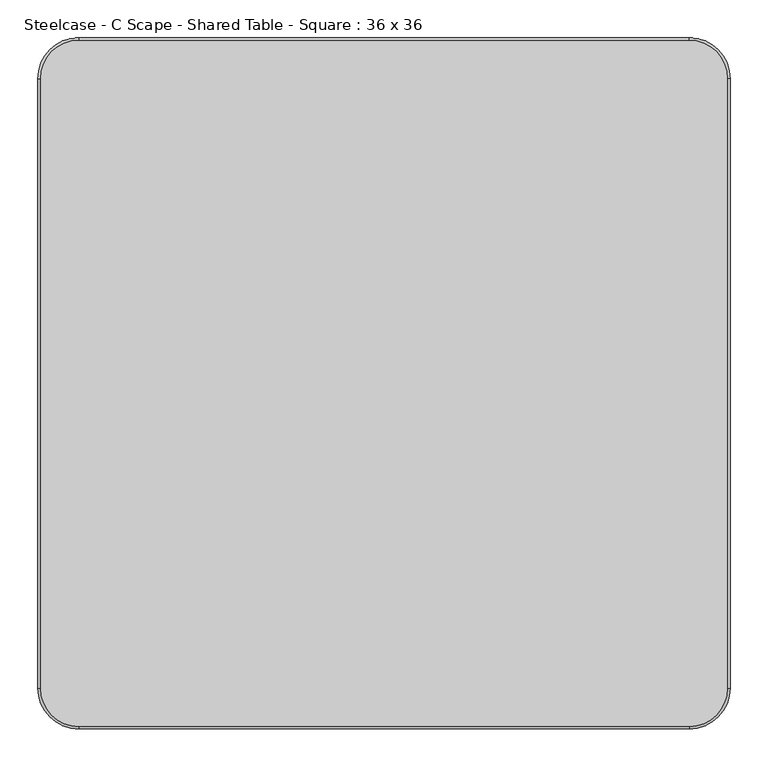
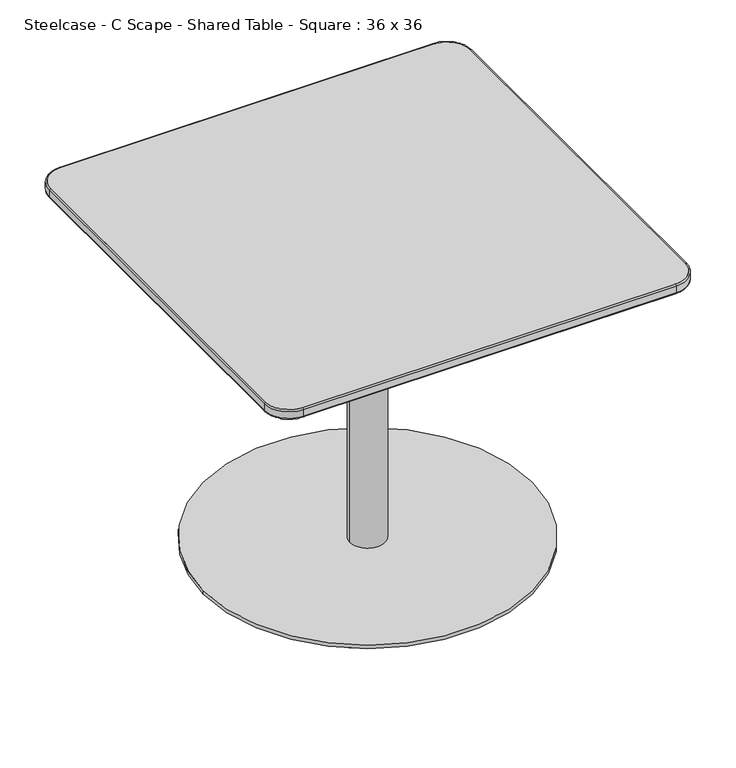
"""IFC4 building model written with IfcOpenShell, lengths in millimetres: furniture geometry, Steelcase - C Scape - Shared Table - Square : 36 x 36."""

from ifc_helpers import new_model, si_unit, point, frame, frame_2d, origin, origin_with_axes, place, context, project, spatial, polyline, circle_curve, ellipse_curve, trimmed, segment, composite_curve, outline, extrude, source, transform, mapped, element, save
from ifc_brep_helpers import plane_surface, cylinder_surface, revolved_surface, spline_surface, advanced_brep


def steelcase_c_scape_shared_table_square_36_x_36_7a23c519(model_context):
    return source(origin(), model_context, "Body", "SolidModel", [
        extrude(outline(composite_curve([segment(trimmed(circle_curve(frame_2d((461.9169393, -130.1887078)), 19.05), [point((442.8669393, -130.1887078))], [point((480.9669393, -130.1887078))], False, "CARTESIAN"), True, "CONTINUOUS"), segment(trimmed(circle_curve(frame_2d((461.9169393, -130.1887078)), 19.05), [point((480.9669393, -130.1887078))], [point((442.8669393, -130.1887078))], False, "CARTESIAN"), True, "CONTINUOUS")], self_intersect=False)), origin_with_axes(), (0.0, 0.0, 1.0), 4.7752),
        extrude(outline(composite_curve([segment(trimmed(circle_curve(frame_2d((773.3274141, -355.7223889)), 19.05), [point((754.2774141, -355.7223889))], [point((792.3774141, -355.7223889))], False, "CARTESIAN"), True, "CONTINUOUS"), segment(trimmed(circle_curve(frame_2d((773.3274141, -355.7223889)), 19.05), [point((792.3774141, -355.7223889))], [point((754.2774141, -355.7223889))], False, "CARTESIAN"), True, "CONTINUOUS")], self_intersect=False)), origin_with_axes(), (0.0, 0.0, 1.0), 4.7752),
        extrude(outline(composite_curve([segment(trimmed(circle_curve(frame_2d((141.0725859, -355.7223889)), 19.05), [point((122.0225859, -355.7223889))], [point((160.1225859, -355.7223889))], False, "CARTESIAN"), True, "CONTINUOUS"), segment(trimmed(circle_curve(frame_2d((141.0725859, -355.7223889)), 19.05), [point((160.1225859, -355.7223889))], [point((122.0225859, -355.7223889))], False, "CARTESIAN"), True, "CONTINUOUS")], self_intersect=False)), origin_with_axes(), (0.0, 0.0, 1.0), 4.7752),
        extrude(outline(composite_curve([segment(trimmed(circle_curve(frame_2d((267.1814105, -725.1440092)), 19.05), [point((248.1314105, -725.1440092))], [point((286.2314105, -725.1440092))], False, "CARTESIAN"), True, "CONTINUOUS"), segment(trimmed(circle_curve(frame_2d((267.1814105, -725.1440092)), 19.05), [point((286.2314105, -725.1440092))], [point((248.1314105, -725.1440092))], False, "CARTESIAN"), True, "CONTINUOUS")], self_intersect=False)), origin_with_axes(), (0.0, 0.0, 1.0), 4.7752),
        extrude(outline(composite_curve([segment(trimmed(circle_curve(frame_2d((647.2185895, -725.1440092)), 19.05), [point((628.1685895, -725.1440092))], [point((666.2685895, -725.1440092))], False, "CARTESIAN"), True, "CONTINUOUS"), segment(trimmed(circle_curve(frame_2d((647.2185895, -725.1440092)), 19.05), [point((666.2685895, -725.1440092))], [point((628.1685895, -725.1440092))], False, "CARTESIAN"), True, "CONTINUOUS")], self_intersect=False)), origin_with_axes(), (0.0, 0.0, 1.0), 4.7752),
        extrude(outline(polyline([(367.0461817, -550.8451349), (367.0461817, -373.0450865), (544.8460848, -373.0450865), (544.8460848, -550.8451349), (367.0461817, -550.8451349)])), frame((0.0, 0.0, 686.0031853), z_axis=(0.0, 0.0, 1.0), x_axis=(1.0, 0.0, 0.0)), (0.0, 0.0, 1.0), 9.4488147),
        extrude(outline(composite_curve([segment(trimmed(circle_curve(frame_2d((456.40625, -457.2)), 38.1), [point((418.30625, -457.2))], [point((494.50625, -457.2))], False, "CARTESIAN"), True, "CONTINUOUS"), segment(trimmed(circle_curve(frame_2d((456.40625, -457.2)), 38.1), [point((494.50625, -457.2))], [point((418.30625, -457.2))], False, "CARTESIAN"), True, "CONTINUOUS")], self_intersect=False)), frame((0.0, 0.0, 12.7), z_axis=(0.0, 0.0, 1.0), x_axis=(1.0, 0.0, 0.0)), (0.0, 0.0, 1.0), 673.3031853),
        extrude(outline(composite_curve([segment(trimmed(circle_curve(frame_2d((457.2, -457.2)), 355.6), [point((101.6, -457.2))], [point((812.8, -457.2))], False, "CARTESIAN"), True, "CONTINUOUS"), segment(trimmed(circle_curve(frame_2d((457.2, -457.2)), 355.6), [point((812.8, -457.2))], [point((101.6, -457.2))], False, "CARTESIAN"), True, "CONTINUOUS")], self_intersect=False)), frame((0.0, 0.0, 4.7752), z_axis=(0.0, 0.0, 1.0), x_axis=(1.0, 0.0, 0.0)), (0.0, 0.0, 1.0), 7.9248),
        advanced_brep(
        [(-0.1222812, -55.3389673, 705.9399771), (53.6749195, -1.5417665, 705.9399771), (53.6749195, -4.5389673, 703.453), (2.8749195, -55.3389673, 703.453), (-0.1222812, -55.3389673, 720.9027992), (53.6749195, -1.5417665, 720.9027992), (2.8749195, -55.3389673, 723.9), (53.6749195, -4.5389673, 723.9), (2.8749195, -860.6027992, 703.453), (-0.1222812, -860.6027992, 705.9399771), (-0.1222812, -860.6027992, 720.9027992), (2.8749195, -860.6027992, 723.9), (914.5222812, -860.6027992, 705.9399771), (911.5250805, -860.6027992, 703.453), (911.5250805, -55.3389673, 703.453), (914.5222812, -55.3389673, 705.9399771), (914.5222812, -860.6027992, 720.9027992), (914.5222812, -55.3389673, 720.9027992), (911.5250805, -860.6027992, 723.9), (911.5250805, -55.3389673, 723.9), (860.7250805, -1.5417665, 705.9399771), (860.7250805, -4.5389673, 703.453), (860.7250805, -1.5417665, 720.9027992), (860.7250805, -4.5389673, 723.9), (53.6749195, -914.4, 705.9399771), (53.6749195, -911.4027992, 703.453), (53.6749195, -914.4, 720.9027992), (53.6749195, -911.4027992, 723.9), (860.7250805, -911.4027992, 703.453), (860.7250805, -914.4, 705.9399771), (860.7250805, -914.4, 720.9027992), (860.7250805, -911.4027992, 723.9)],
        [
            (0, 1, circle_curve(frame((53.6749195, -55.3389673, 705.9399771), z_axis=(0.0, 0.0, -1.0), x_axis=(0.0, 1.0, 0.0)), 53.7972008)),
            (1, 2, circle_curve(frame((53.6749195, -4.0721722, 705.9399771), z_axis=(-1.0, 0.0, 0.0), x_axis=(0.0, -1.0, 0.0)), 2.5304056)),
            (2, 3, circle_curve(frame((53.6749195, -55.3389673, 703.453), z_axis=(0.0, 0.0, 1.0), x_axis=(0.0, 1.0, 0.0)), 50.8)),
            (3, 0, circle_curve(frame((2.4081244, -55.3389673, 705.9399771), z_axis=(0.0, 1.0, 0.0), x_axis=(1.0, 0.0, 0.0)), 2.5304056)),
            (4, 5, circle_curve(frame((53.6749195, -55.3389673, 720.9027992), z_axis=(0.0, 0.0, -1.0), x_axis=(0.0, 1.0, 0.0)), 53.7972008)),
            (5, 1),
            (0, 4),
            (6, 7, circle_curve(frame((53.6749195, -55.3389673, 723.9), z_axis=(0.0, 0.0, -1.0), x_axis=(0.0, 1.0, 0.0)), 50.8)),
            (7, 5, circle_curve(frame((53.6749195, -4.5389673, 720.9027992), z_axis=(-1.0, 0.0, 0.0), x_axis=(0.0, -1.0, 0.0)), 2.9972008)),
            (4, 6, circle_curve(frame((2.8749195, -55.3389673, 720.9027992), z_axis=(0.0, 1.0, 0.0), x_axis=(1.0, 0.0, 0.0)), 2.9972008)),
            (2, 7),
            (6, 3),
            (3, 8),
            (8, 9, circle_curve(frame((2.4081244, -860.6027992, 705.9399771), z_axis=(0.0, 1.0, 0.0), x_axis=(1.0, 0.0, 0.0)), 2.5304056)),
            (9, 0),
            (9, 10),
            (10, 4),
            (10, 11, circle_curve(frame((2.8749195, -860.6027992, 720.9027992), z_axis=(0.0, 1.0, 0.0), x_axis=(1.0, 0.0, 0.0)), 2.9972008)),
            (11, 6),
            (11, 8),
            (12, 13, circle_curve(frame((911.9918756, -860.6027992, 705.9399771), z_axis=(0.0, 1.0, 0.0), x_axis=(-1.0, 0.0, 0.0)), 2.5304056)),
            (13, 14),
            (14, 15, circle_curve(frame((911.9918756, -55.3389673, 705.9399771), z_axis=(0.0, -1.0, 0.0), x_axis=(-1.0, 0.0, 0.0)), 2.5304056)),
            (15, 12),
            (16, 12),
            (15, 17),
            (17, 16),
            (18, 16, circle_curve(frame((911.5250805, -860.6027992, 720.9027992), z_axis=(0.0, 1.0, 0.0), x_axis=(-1.0, 0.0, 0.0)), 2.9972008)),
            (17, 19, circle_curve(frame((911.5250805, -55.3389673, 720.9027992), z_axis=(0.0, -1.0, 0.0), x_axis=(-1.0, 0.0, 0.0)), 2.9972008)),
            (19, 18),
            (13, 18),
            (19, 14),
            (20, 15, circle_curve(frame((860.7250805, -55.3389673, 705.9399771), z_axis=(0.0, 0.0, -1.0), x_axis=(1.0, 0.0, 0.0)), 53.7972008)),
            (14, 21, circle_curve(frame((860.7250805, -55.3389673, 703.453), z_axis=(0.0, 0.0, 1.0), x_axis=(1.0, 0.0, 0.0)), 50.8)),
            (21, 20, circle_curve(frame((860.7250805, -4.0721722, 705.9399771), z_axis=(1.0, 0.0, 0.0), x_axis=(0.0, -1.0, 0.0)), 2.5304056)),
            (22, 17, circle_curve(frame((860.7250805, -55.3389673, 720.9027992), z_axis=(0.0, 0.0, -1.0), x_axis=(1.0, 0.0, 0.0)), 53.7972008)),
            (20, 22),
            (23, 19, circle_curve(frame((860.7250805, -55.3389673, 723.9), z_axis=(0.0, 0.0, -1.0), x_axis=(1.0, 0.0, 0.0)), 50.8)),
            (22, 23, circle_curve(frame((860.7250805, -4.5389673, 720.9027992), z_axis=(1.0, 0.0, 0.0), x_axis=(0.0, -1.0, 0.0)), 2.9972008)),
            (23, 21),
            (21, 2),
            (1, 20),
            (5, 22),
            (7, 23),
            (24, 9, circle_curve(frame((53.6749195, -860.6027992, 705.9399771), z_axis=(0.0, 0.0, -1.0), x_axis=(-1.0, 0.0, 0.0)), 53.7972008)),
            (8, 25, circle_curve(frame((53.6749195, -860.6027992, 703.453), z_axis=(0.0, 0.0, 1.0), x_axis=(-1.0, 0.0, 0.0)), 50.8)),
            (25, 24, circle_curve(frame((53.6749195, -911.8695944, 705.9399771), z_axis=(-1.0, 0.0, 0.0), x_axis=(0.0, 1.0, 0.0)), 2.5304056)),
            (26, 10, circle_curve(frame((53.6749195, -860.6027992, 720.9027992), z_axis=(0.0, 0.0, -1.0), x_axis=(-1.0, 0.0, 0.0)), 53.7972008)),
            (24, 26),
            (27, 11, circle_curve(frame((53.6749195, -860.6027992, 723.9), z_axis=(0.0, 0.0, -1.0), x_axis=(-1.0, 0.0, 0.0)), 50.8)),
            (26, 27, circle_curve(frame((53.6749195, -911.4027992, 720.9027992), z_axis=(-1.0, 0.0, 0.0), x_axis=(0.0, 1.0, 0.0)), 2.9972008)),
            (27, 25),
            (25, 28),
            (28, 29, circle_curve(frame((860.7250805, -911.8695944, 705.9399771), z_axis=(-1.0, 0.0, 0.0), x_axis=(0.0, 1.0, 0.0)), 2.5304056)),
            (29, 24),
            (29, 30),
            (30, 26),
            (30, 31, circle_curve(frame((860.7250805, -911.4027992, 720.9027992), z_axis=(-1.0, 0.0, 0.0), x_axis=(0.0, 1.0, 0.0)), 2.9972008)),
            (31, 27),
            (31, 28),
            (12, 29, circle_curve(frame((860.7250805, -860.6027992, 705.9399771), z_axis=(0.0, 0.0, -1.0), x_axis=(0.0, -1.0, 0.0)), 53.7972008)),
            (28, 13, circle_curve(frame((860.7250805, -860.6027992, 703.453), z_axis=(0.0, 0.0, 1.0), x_axis=(0.0, -1.0, 0.0)), 50.8)),
            (16, 30, circle_curve(frame((860.7250805, -860.6027992, 720.9027992), z_axis=(0.0, 0.0, -1.0), x_axis=(0.0, -1.0, 0.0)), 53.7972008)),
            (18, 31, circle_curve(frame((860.7250805, -860.6027992, 723.9), z_axis=(0.0, 0.0, -1.0), x_axis=(0.0, -1.0, 0.0)), 50.8)),
        ],
        [
            revolved_surface(trimmed(ellipse_curve(frame((53.6749195, -4.0721722, 705.9399771), z_axis=(1.0, 0.0, 0.0), x_axis=(0.0, -1.0, 0.0)), 2.5304056, 2.5304056), [point((53.6749195, -4.5389673, 703.453))], [point((53.6749195, -1.5417665, 705.9399771))], True, "CARTESIAN"), (53.6749195, -55.3389673, 703.453), (0.0, 0.0, 1.0)),
            cylinder_surface(frame((53.6749195, -55.3389673, 703.453), z_axis=(0.0, 0.0, 1.0), x_axis=(0.0, 1.0, 0.0)), 53.7972008),
            revolved_surface(trimmed(ellipse_curve(frame((53.6749195, -4.5389673, 720.9027992), z_axis=(1.0, 0.0, 0.0), x_axis=(0.0, -1.0, 0.0)), 2.9972008, 2.9972008), [point((53.6749195, -1.5417665, 720.9027992))], [point((53.6749195, -4.5389673, 723.9))], True, "CARTESIAN"), (53.6749195, -55.3389673, 703.453), (0.0, 0.0, 1.0)),
            revolved_surface(polyline([(53.6749195, -4.538967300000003, 723.9), (53.6749195, -4.538967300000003, 703.453)]), (53.6749195, -55.3389673, 703.453), (0.0, 0.0, 1.0)),
            cylinder_surface(frame((2.4081244, -55.3389673, 705.9399771), z_axis=(0.0, 1.0, 0.0), x_axis=(1.0, 0.0, 0.0)), 2.5304056),
            plane_surface(frame((-0.1222812, -55.3389673, 705.9399771), z_axis=(-1.0, 0.0, 0.0), x_axis=(0.0, -1.0, 0.0))),
            cylinder_surface(frame((2.8749195, -55.3389673, 720.9027992), z_axis=(0.0, 1.0, 0.0), x_axis=(1.0, 0.0, 0.0)), 2.9972008),
            plane_surface(frame((2.8749195, -55.3389673, 723.9), z_axis=(1.0, 0.0, 0.0), x_axis=(0.0, -1.0, 0.0))),
            cylinder_surface(frame((911.9918756, -860.6027992, 705.9399771), z_axis=(0.0, -1.0, 0.0), x_axis=(-1.0, 0.0, 0.0)), 2.5304056),
            plane_surface(frame((914.5222812, -860.6027992, 705.9399771), z_axis=(1.0, 0.0, 0.0), x_axis=(0.0, 1.0, 0.0))),
            cylinder_surface(frame((911.5250805, -860.6027992, 720.9027992), z_axis=(0.0, -1.0, 0.0), x_axis=(-1.0, 0.0, 0.0)), 2.9972008),
            plane_surface(frame((911.5250805, -860.6027992, 723.9), z_axis=(-1.0, 0.0, 0.0), x_axis=(0.0, 1.0, 0.0))),
            revolved_surface(trimmed(ellipse_curve(frame((911.9918756, -55.3389673, 705.9399771), z_axis=(0.0, -1.0, 0.0), x_axis=(-1.0, 0.0, 0.0)), 2.5304056, 2.5304056), [point((911.5250805, -55.3389673, 703.453))], [point((914.5222812, -55.3389673, 705.9399771))], True, "CARTESIAN"), (860.7250805, -55.3389673, 703.453), (0.0, 0.0, 1.0)),
            cylinder_surface(frame((860.7250805, -55.3389673, 703.453), z_axis=(0.0, 0.0, 1.0), x_axis=(1.0, 0.0, 0.0)), 53.7972008),
            revolved_surface(trimmed(ellipse_curve(frame((911.5250805, -55.3389673, 720.9027992), z_axis=(0.0, -1.0, 0.0), x_axis=(-1.0, 0.0, 0.0)), 2.9972008, 2.9972008), [point((914.5222812, -55.3389673, 720.9027992))], [point((911.5250805, -55.3389673, 723.9))], True, "CARTESIAN"), (860.7250805, -55.3389673, 703.453), (0.0, 0.0, 1.0)),
            revolved_surface(polyline([(911.5250805, -55.3389673, 723.9), (911.5250805, -55.3389673, 703.453)]), (860.7250805, -55.3389673, 703.453), (0.0, 0.0, 1.0)),
            cylinder_surface(frame((860.7250805, -4.0721722, 705.9399771), z_axis=(1.0, 0.0, 0.0), x_axis=(0.0, -1.0, 0.0)), 2.5304056),
            plane_surface(frame((860.7250805, -1.5417665, 705.9399771), z_axis=(0.0, 1.0, 0.0), x_axis=(-1.0, 0.0, 0.0))),
            cylinder_surface(frame((860.7250805, -4.5389673, 720.9027992), z_axis=(1.0, 0.0, 0.0), x_axis=(0.0, -1.0, 0.0)), 2.9972008),
            plane_surface(frame((860.7250805, -4.5389673, 723.9), z_axis=(0.0, -1.0, 0.0), x_axis=(-1.0, 0.0, 0.0))),
            revolved_surface(trimmed(ellipse_curve(frame((2.4081244, -860.6027992, 705.9399771), z_axis=(0.0, 1.0, 0.0), x_axis=(1.0, 0.0, 0.0)), 2.5304056, 2.5304056), [point((2.8749195, -860.6027992, 703.453))], [point((-0.1222812, -860.6027992, 705.9399771))], True, "CARTESIAN"), (53.6749195, -860.6027992, 703.453), (0.0, 0.0, 1.0)),
            cylinder_surface(frame((53.6749195, -860.6027992, 703.453), z_axis=(0.0, 0.0, 1.0), x_axis=(-1.0, 0.0, 0.0)), 53.7972008),
            revolved_surface(trimmed(ellipse_curve(frame((2.8749195, -860.6027992, 720.9027992), z_axis=(0.0, 1.0, 0.0), x_axis=(1.0, 0.0, 0.0)), 2.9972008, 2.9972008), [point((-0.1222812, -860.6027992, 720.9027992))], [point((2.8749195, -860.6027992, 723.9))], True, "CARTESIAN"), (53.6749195, -860.6027992, 703.453), (0.0, 0.0, 1.0)),
            revolved_surface(polyline([(2.8749195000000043, -860.6027992, 723.9), (2.8749195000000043, -860.6027992, 703.453)]), (53.6749195, -860.6027992, 703.453), (0.0, 0.0, 1.0)),
            cylinder_surface(frame((53.6749195, -911.8695944, 705.9399771), z_axis=(-1.0, 0.0, 0.0), x_axis=(0.0, 1.0, 0.0)), 2.5304056),
            plane_surface(frame((53.6749195, -914.4, 705.9399771), z_axis=(0.0, -1.0, 0.0), x_axis=(1.0, 0.0, 0.0))),
            cylinder_surface(frame((53.6749195, -911.4027992, 720.9027992), z_axis=(-1.0, 0.0, 0.0), x_axis=(0.0, 1.0, 0.0)), 2.9972008),
            plane_surface(frame((53.6749195, -911.4027992, 723.9), z_axis=(0.0, 1.0, 0.0), x_axis=(1.0, 0.0, 0.0))),
            revolved_surface(trimmed(ellipse_curve(frame((860.7250805, -911.8695944, 705.9399771), z_axis=(-1.0, 0.0, 0.0), x_axis=(0.0, 1.0, 0.0)), 2.5304056, 2.5304056), [point((860.7250805, -911.4027992, 703.453))], [point((860.7250805, -914.4, 705.9399771))], True, "CARTESIAN"), (860.7250805, -860.6027992, 703.453), (0.0, 0.0, 1.0)),
            cylinder_surface(frame((860.7250805, -860.6027992, 703.453), z_axis=(0.0, 0.0, 1.0), x_axis=(0.0, -1.0, 0.0)), 53.7972008),
            revolved_surface(trimmed(ellipse_curve(frame((860.7250805, -911.4027992, 720.9027992), z_axis=(-1.0, 0.0, 0.0), x_axis=(0.0, 1.0, 0.0)), 2.9972008, 2.9972008), [point((860.7250805, -914.4, 720.9027992))], [point((860.7250805, -911.4027992, 723.9))], True, "CARTESIAN"), (860.7250805, -860.6027992, 703.453), (0.0, 0.0, 1.0)),
            revolved_surface(polyline([(860.7250805, -911.4027992, 723.9), (860.7250805, -911.4027992, 703.453)]), (860.7250805, -860.6027992, 703.453), (0.0, 0.0, 1.0)),
        ],
        [
            (0, [[1, 2, 3, 4]]),
            (1, [[5, 6, -1, 7]]),
            (2, [[8, 9, -5, 10]]),
            (3, [[-3, 11, -8, 12]]),
            (4, [[-4, 13, 14, 15]]),
            (5, [[-7, -15, 16, 17]]),
            (6, [[-10, -17, 18, 19]]),
            (7, [[-12, -19, 20, -13]]),
            (8, [[21, 22, 23, 24]]),
            (9, [[25, -24, 26, 27]]),
            (10, [[28, -27, 29, 30]]),
            (11, [[31, -30, 32, -22]]),
            (12, [[33, -23, 34, 35]]),
            (13, [[36, -26, -33, 37]]),
            (14, [[38, -29, -36, 39]]),
            (15, [[-34, -32, -38, 40]]),
            (16, [[-35, 41, -2, 42]]),
            (17, [[-37, -42, -6, 43]]),
            (18, [[-39, -43, -9, 44]]),
            (19, [[-40, -44, -11, -41]]),
            (20, [[45, -14, 46, 47]]),
            (21, [[48, -16, -45, 49]]),
            (22, [[50, -18, -48, 51]]),
            (23, [[-46, -20, -50, 52]]),
            (24, [[-47, 53, 54, 55]]),
            (25, [[-49, -55, 56, 57]]),
            (26, [[-51, -57, 58, 59]]),
            (27, [[-52, -59, 60, -53]]),
            (28, [[61, -54, 62, -21]]),
            (29, [[63, -56, -61, -25]]),
            (30, [[64, -58, -63, -28]]),
            (31, [[-62, -60, -64, -31]]),
        ],
    ),
        extrude(outline(composite_curve([segment(polyline([(2.8749195, -860.6027992), (2.8749195, -55.3389673)]), True, "CONTINUOUS"), segment(trimmed(circle_curve(frame_2d((53.6749195, -55.3389673)), 50.8), [point((2.8749195, -55.3389673))], [point((53.6749195, -4.5389673))], False, "CARTESIAN"), True, "CONTINUOUS"), segment(polyline([(53.6749195, -4.5389673), (860.7250805, -4.5389673)]), True, "CONTINUOUS"), segment(trimmed(circle_curve(frame_2d((860.7250805, -55.3389673)), 50.8), [point((860.7250805, -4.5389673))], [point((911.5250805, -55.3389673))], False, "CARTESIAN"), True, "CONTINUOUS"), segment(polyline([(911.5250805, -55.3389673), (911.5250805, -860.6027992)]), True, "CONTINUOUS"), segment(trimmed(circle_curve(frame_2d((860.7250805, -860.6027992)), 50.8), [point((911.5250805, -860.6027992))], [point((860.7250805, -911.4027992))], False, "CARTESIAN"), True, "CONTINUOUS"), segment(polyline([(860.7250805, -911.4027992), (53.6749195, -911.4027992)]), True, "CONTINUOUS"), segment(trimmed(circle_curve(frame_2d((53.6749195, -860.6027992)), 50.8), [point((53.6749195, -911.4027992))], [point((2.8749195, -860.6027992))], False, "CARTESIAN"), True, "CONTINUOUS")], self_intersect=False)), frame((0.0, 0.0, 703.453), z_axis=(0.0, 0.0, 1.0), x_axis=(1.0, 0.0, 0.0)), (0.0, 0.0, 1.0), 20.447),
        advanced_brep(
        [(911.5250805, -55.3389673, 703.453), (860.7250805, -4.5389673, 703.453), (53.6749195, -4.5389673, 703.453), (2.8749195, -55.3389673, 703.453), (2.8749195, -860.6027992, 703.453), (53.6749195, -911.4027992, 703.453), (860.7250805, -911.4027992, 703.453), (911.5250805, -860.6027992, 703.453), (856.8729157, -52.7989673, 693.928), (856.8729157, -863.626791, 693.928), (57.5270843, -863.626791, 693.928), (57.5270843, -52.7989673, 693.928)],
        [
            (0, 1, circle_curve(frame((860.7250805, -55.3389673, 703.453), z_axis=(0.0, 0.0, 1.0), x_axis=(1.0, 0.0, 0.0)), 50.8)),
            (1, 2),
            (2, 3, circle_curve(frame((53.6749195, -55.3389673, 703.453), z_axis=(0.0, 0.0, 1.0), x_axis=(1.0, 0.0, 0.0)), 50.8)),
            (3, 4),
            (4, 5, circle_curve(frame((53.6749195, -860.6027992, 703.453), z_axis=(0.0, 0.0, 1.0), x_axis=(1.0, 0.0, 0.0)), 50.8)),
            (5, 6),
            (6, 7, circle_curve(frame((860.7250805, -860.6027992, 703.453), z_axis=(0.0, 0.0, 1.0), x_axis=(1.0, 0.0, 0.0)), 50.8)),
            (7, 0),
            (8, 9),
            (9, 10),
            (10, 11),
            (11, 8),
            (0, 8),
            (8, 1),
            (2, 11),
            (11, 3),
            (4, 10),
            (10, 5),
            (6, 9),
            (9, 7),
        ],
        [
            plane_surface(frame((457.2, -457.9708833, 703.453), z_axis=(0.0, 0.0, 1.0), x_axis=(-1.0, 0.0, 0.0))),
            plane_surface(frame((457.2, -458.2128792, 693.928), z_axis=(0.0, 0.0, -1.0), x_axis=(-1.0, 0.0, 0.0))),
            spline_surface(2, 1, [[(856.8729157, -52.7989673, 693.928), (911.5250805, -55.3389673, 703.453)], [(856.8729157, -52.7989673, 693.928), (911.5250805, -4.538967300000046, 703.453)], [(856.8729157, -52.7989673, 693.928), (860.7250805, -4.5389673, 703.453)]], [3, 3], [2, 2], [0.0, 1.0], [0.0, 1.0], weights=[[1.0, 1.0], [0.7071067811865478, 0.7071067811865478], [1.0, 1.0]]),
            spline_surface(2, 1, [[(57.5270843, -52.7989673, 693.928), (53.6749195, -4.5389673, 703.453)], [(57.5270843, -52.7989673, 693.928), (2.8749195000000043, -4.538967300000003, 703.453)], [(57.5270843, -52.7989673, 693.928), (2.8749195, -55.3389673, 703.453)]], [3, 3], [2, 2], [0.0, 1.0], [0.0, 1.0], weights=[[1.0, 1.0], [0.7071067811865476, 0.7071067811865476], [1.0, 1.0]]),
            spline_surface(2, 1, [[(57.5270843, -863.626791, 693.928), (2.8749195, -860.6027992, 703.453)], [(57.5270843, -863.626791, 693.928), (2.8749194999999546, -911.4027992, 703.453)], [(57.5270843, -863.626791, 693.928), (53.6749195, -911.4027992, 703.453)]], [3, 3], [2, 2], [0.0, 1.0], [0.0, 1.0], weights=[[1.0, 1.0], [0.7071067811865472, 0.7071067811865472], [1.0, 1.0]]),
            spline_surface(2, 1, [[(856.8729157, -863.626791, 693.928), (860.7250805, -911.4027992, 703.453)], [(856.8729157, -863.626791, 693.928), (911.5250805, -911.4027992, 703.453)], [(856.8729157, -863.626791, 693.928), (911.5250805, -860.6027992, 703.453)]], [3, 3], [2, 2], [0.0, 1.0], [0.0, 1.0], weights=[[1.0, 1.0], [0.7071067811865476, 0.7071067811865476], [1.0, 1.0]]),
            plane_surface(frame((457.2, -52.7989673, 693.928), z_axis=(0.0, 0.19363303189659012, -0.9810740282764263), x_axis=(-1.0, 0.0, 0.0))),
            plane_surface(frame((57.5270843, -458.2128792, 693.928), z_axis=(-0.17169591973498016, 0.0, -0.9851499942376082), x_axis=(0.0, -1.0, 0.0))),
            plane_surface(frame((457.2, -863.626791, 693.928), z_axis=(0.0, -0.19551999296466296, -0.9806997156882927), x_axis=(1.0, 0.0, 0.0))),
            plane_surface(frame((856.8729157, -458.2128792, 693.928), z_axis=(0.17169591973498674, 0.0, -0.985149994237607), x_axis=(0.0, 1.0, 0.0))),
        ],
        [
            (0, [[1, 2, 3, 4, 5, 6, 7, 8]]),
            (1, [[9, 10, 11, 12]]),
            (2, [[-1, 13, 14]]),
            (3, [[-3, 15, 16]]),
            (4, [[-5, 17, 18]]),
            (5, [[-7, 19, 20]]),
            (6, [[-12, -15, -2, -14]]),
            (7, [[-11, -17, -4, -16]]),
            (8, [[-10, -19, -6, -18]]),
            (9, [[-9, -13, -8, -20]]),
        ],
    ),
    ])


if __name__ == "__main__":
    model = new_model("IFC4")
    model_context = context("Model", 3, world=origin())
    ifc_project = project(units=[si_unit("LENGTHUNIT", "METRE", prefix="MILLI")], contexts=[model_context])
    site = spatial("IfcSite", under=ifc_project)
    building = spatial("IfcBuilding", under=site)
    placement = place(None, origin())
    steelcase_c_scape_shared_table_square_36_x_36_shape = steelcase_c_scape_shared_table_square_36_x_36_7a23c519(model_context)
    element("IfcFurniture", 1, ObjectType="Steelcase - C Scape - Shared Table - Square : 36 x 36", at=placement, inside=building, context=model_context, shape_type="MappedRepresentation", body=[
        mapped(steelcase_c_scape_shared_table_square_36_x_36_shape, transform((0.0, 0.0, 0.0), x_axis=(1.0, 0.0, 0.0), y_axis=(0.0, 1.0, 0.0), z_axis=(0.0, 0.0, 1.0))),
    ])
    save(model, "model.ifc")
